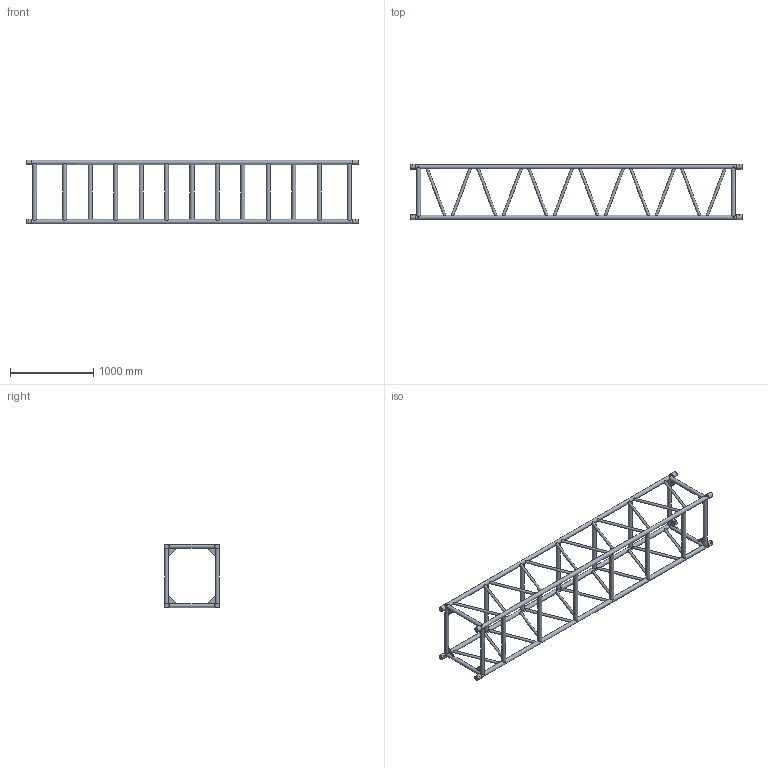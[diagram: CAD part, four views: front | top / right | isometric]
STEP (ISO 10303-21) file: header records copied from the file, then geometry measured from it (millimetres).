
FILE_DESCRIPTION(/* description */ (''),/* implementation_level */ '2;1');
FILE_NAME(/* name */ 'C:\Users\adrian.toca\Desktop\111110186.stp',/* time_stamp */ '2016-12-08T11:29:41+02:00',/* author */ ('adrian.toca'),/* organization */ (''),/* preprocessor_version */ 'ST-DEVELOPER v15.6',/* originating_system */ 'Autodesk Inventor 2015',/* authorisation */ '');
FILE_SCHEMA (('AUTOMOTIVE_DESIGN { 1 0 10303 214 3 1 1 }'));
Length unit declared in the file: millimetre
Products named in the file (1): 260031319
Bounding box: 4000 x 668.58 x 770.58 mm (x, y, z)
Volume: 64704655.4 mm3; surface area: 5806657.4 mm2
Topology: 1 solids, 1 shells, 235 faces, 671 edges, 424 vertices
Faces by surface type: plane 148, cylinder 79, cone 8
Full cylindrical faces by diameter (mm): 10 x8, 30 x24, 48.3 x15, 48.302 x4, 50 x4, 58.8 x8
Entity records: 11927 total; most frequent: CARTESIAN_POINT 6316, ORIENTED_EDGE 1032, DIRECTION 932, EDGE_CURVE 508, EDGE_LOOP 424, AXIS2_PLACEMENT_3D 376, VERTEX_POINT 368, STYLED_ITEM 236
